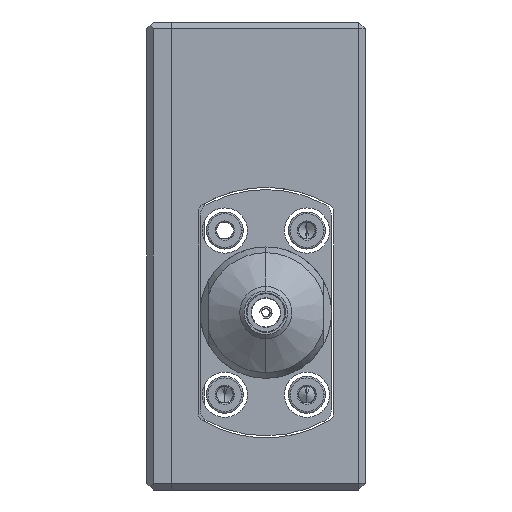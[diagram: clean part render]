
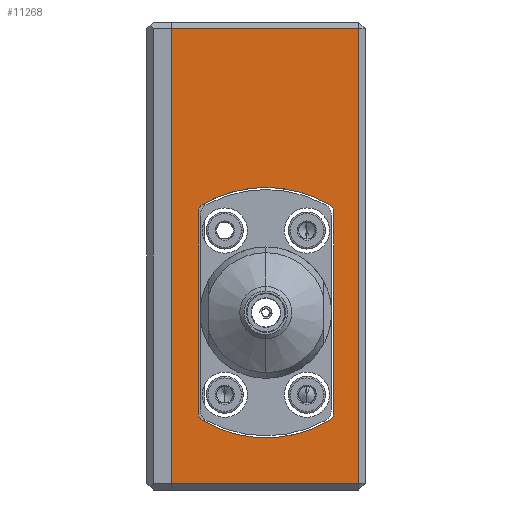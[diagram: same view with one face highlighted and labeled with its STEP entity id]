
A CAD part, left-side view. The second image highlights one B-rep face of the part: STEP entity #11268.
In plain terms, the highlighted planar face has unit normal (-1, 0, 0).
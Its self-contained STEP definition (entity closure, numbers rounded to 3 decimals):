
#126 = DIRECTION ( 'NONE',  ( 0., 0., 1. ) ) ;
#153 = ORIENTED_EDGE ( 'NONE', *, *, #2607, .F. ) ;
#436 = VERTEX_POINT ( 'NONE', #5496 ) ;
#623 = CARTESIAN_POINT ( 'NONE',  ( -20., -19.259, -1.271 ) ) ;
#637 = VERTEX_POINT ( 'NONE', #3236 ) ;
#895 = ORIENTED_EDGE ( 'NONE', *, *, #8163, .F. ) ;
#1932 = DIRECTION ( 'NONE',  ( 0., 0., 1. ) ) ;
#1965 = DIRECTION ( 'NONE',  ( -1., 0., 0. ) ) ;
#1983 = AXIS2_PLACEMENT_3D ( 'NONE', #10671, #10618, #10557 ) ;
#1988 = CARTESIAN_POINT ( 'NONE',  ( -20., -23.6, -36. ) ) ;
#2163 = AXIS2_PLACEMENT_3D ( 'NONE', #12257, #12253, #12227 ) ;
#2225 = PLANE ( 'NONE',  #14471 ) ;
#2326 = EDGE_LOOP ( 'NONE', ( #12588, #16977, #6906, #6824 ) ) ;
#2607 = EDGE_CURVE ( 'NONE', #20833, #8684, #12214, .T. ) ;
#2691 = EDGE_CURVE ( 'NONE', #5492, #20833, #11824, .T. ) ;
#2702 = VERTEX_POINT ( 'NONE', #10391 ) ;
#2956 = EDGE_CURVE ( 'NONE', #5392, #5492, #10358, .T. ) ;
#3201 = CIRCLE ( 'NONE', #4397, 1. ) ;
#3236 = CARTESIAN_POINT ( 'NONE',  ( -20., -3.741, -1.271 ) ) ;
#3309 = EDGE_CURVE ( 'NONE', #12557, #18153, #8706, .T. ) ;
#3351 = ORIENTED_EDGE ( 'NONE', *, *, #13172, .F. ) ;
#3356 = FACE_OUTER_BOUND ( 'NONE', #2326, .T. ) ;
#3375 = EDGE_CURVE ( 'NONE', #18153, #436, #8222, .T. ) ;
#3450 = EDGE_CURVE ( 'NONE', #2702, #436, #7837, .T. ) ;
#3724 = EDGE_CURVE ( 'NONE', #637, #17450, #6722, .T. ) ;
#3856 = CIRCLE ( 'NONE', #5301, 15.25 ) ;
#4397 = AXIS2_PLACEMENT_3D ( 'NONE', #6513, #19640, #8560 ) ;
#4563 = CIRCLE ( 'NONE', #11224, 1. ) ;
#4682 = ORIENTED_EDGE ( 'NONE', *, *, #2691, .F. ) ;
#4966 = DIRECTION ( 'NONE',  ( 0., 0., 1. ) ) ;
#4971 = CARTESIAN_POINT ( 'NONE',  ( -20., -19.75, -26.668 ) ) ;
#5301 = AXIS2_PLACEMENT_3D ( 'NONE', #20598, #11296, #126 ) ;
#5392 = VERTEX_POINT ( 'NONE', #22569 ) ;
#5478 = VERTEX_POINT ( 'NONE', #20434 ) ;
#5492 = VERTEX_POINT ( 'NONE', #20018 ) ;
#5496 = CARTESIAN_POINT ( 'NONE',  ( -20., 0., 20.2 ) ) ;
#5753 = EDGE_CURVE ( 'NONE', #2702, #12557, #18728, .T. ) ;
#6513 = CARTESIAN_POINT ( 'NONE',  ( -20., -18.75, -26.668 ) ) ;
#6722 = CIRCLE ( 'NONE', #23884, 1. ) ;
#6824 = ORIENTED_EDGE ( 'NONE', *, *, #5753, .T. ) ;
#6906 = ORIENTED_EDGE ( 'NONE', *, *, #3450, .F. ) ;
#7261 = EDGE_CURVE ( 'NONE', #17450, #12310, #8259, .T. ) ;
#7837 = LINE ( 'NONE', #14432, #7862 ) ;
#7862 = VECTOR ( 'NONE', #14644, 1000. ) ;
#7979 = EDGE_CURVE ( 'NONE', #8684, #637, #3856, .T. ) ;
#8159 = VECTOR ( 'NONE', #17698, 1000. ) ;
#8163 = EDGE_CURVE ( 'NONE', #15626, #5392, #3201, .T. ) ;
#8222 = LINE ( 'NONE', #18319, #8159 ) ;
#8259 = LINE ( 'NONE', #16694, #8269 ) ;
#8269 = VECTOR ( 'NONE', #17078, 1000. ) ;
#8495 = VECTOR ( 'NONE', #20428, 1000. ) ;
#8560 = DIRECTION ( 'NONE',  ( 0., 0., -1. ) ) ;
#8684 = VERTEX_POINT ( 'NONE', #19220 ) ;
#8706 = LINE ( 'NONE', #21073, #8495 ) ;
#9016 = CARTESIAN_POINT ( 'NONE',  ( -20., -22.8, 20.2 ) ) ;
#9099 = EDGE_CURVE ( 'NONE', #5478, #15626, #14807, .T. ) ;
#10358 = LINE ( 'NONE', #4971, #10558 ) ;
#10391 = CARTESIAN_POINT ( 'NONE',  ( -20., 0., -35.2 ) ) ;
#10495 = EDGE_LOOP ( 'NONE', ( #895, #23958, #3351, #22412, #17950, #17865, #153, #4682, #23625 ) ) ;
#10557 = DIRECTION ( 'NONE',  ( 0., 0., -1. ) ) ;
#10558 = VECTOR ( 'NONE', #4966, 1000. ) ;
#10618 = DIRECTION ( 'NONE',  ( -1., 0., 0. ) ) ;
#10671 = CARTESIAN_POINT ( 'NONE',  ( -20., -18.75, -2.132 ) ) ;
#11224 = AXIS2_PLACEMENT_3D ( 'NONE', #21078, #21059, #21052 ) ;
#11268 = ADVANCED_FACE ( 'NONE', ( #14579, #3356 ), #2225, .T. ) ;
#11296 = DIRECTION ( 'NONE',  ( -1., 0., 0. ) ) ;
#11824 = CIRCLE ( 'NONE', #1983, 1. ) ;
#11851 = CARTESIAN_POINT ( 'NONE',  ( -20., -22.8, -35.2 ) ) ;
#12214 = CIRCLE ( 'NONE', #2163, 15.25 ) ;
#12227 = DIRECTION ( 'NONE',  ( 0., 0., 1. ) ) ;
#12253 = DIRECTION ( 'NONE',  ( -1., 0., 0. ) ) ;
#12257 = CARTESIAN_POINT ( 'NONE',  ( -20., -11.5, -14.4 ) ) ;
#12310 = VERTEX_POINT ( 'NONE', #24172 ) ;
#12557 = VERTEX_POINT ( 'NONE', #11851 ) ;
#12588 = ORIENTED_EDGE ( 'NONE', *, *, #3309, .T. ) ;
#13172 = EDGE_CURVE ( 'NONE', #12310, #5478, #4563, .T. ) ;
#13715 = CARTESIAN_POINT ( 'NONE',  ( -20., -23.6, -35.2 ) ) ;
#13737 = DIRECTION ( 'NONE',  ( 0., -1., 0. ) ) ;
#14401 = CARTESIAN_POINT ( 'NONE',  ( -20., -3.25, -2.132 ) ) ;
#14432 = CARTESIAN_POINT ( 'NONE',  ( -20., 0., -36. ) ) ;
#14471 = AXIS2_PLACEMENT_3D ( 'NONE', #1988, #1965, #1932 ) ;
#14579 = FACE_BOUND ( 'NONE', #10495, .T. ) ;
#14644 = DIRECTION ( 'NONE',  ( 0., 0., 1. ) ) ;
#14807 = CIRCLE ( 'NONE', #18941, 15.25 ) ;
#15626 = VERTEX_POINT ( 'NONE', #20714 ) ;
#16274 = DIRECTION ( 'NONE',  ( 0., 0., 1. ) ) ;
#16277 = CARTESIAN_POINT ( 'NONE',  ( -20., -11.5, -14.4 ) ) ;
#16301 = DIRECTION ( 'NONE',  ( -1., 0., 0. ) ) ;
#16694 = CARTESIAN_POINT ( 'NONE',  ( -20., -3.25, -26.668 ) ) ;
#16977 = ORIENTED_EDGE ( 'NONE', *, *, #3375, .T. ) ;
#17078 = DIRECTION ( 'NONE',  ( 0., 0., -1. ) ) ;
#17450 = VERTEX_POINT ( 'NONE', #14401 ) ;
#17698 = DIRECTION ( 'NONE',  ( 0., 1., 0. ) ) ;
#17865 = ORIENTED_EDGE ( 'NONE', *, *, #7979, .F. ) ;
#17950 = ORIENTED_EDGE ( 'NONE', *, *, #3724, .F. ) ;
#18153 = VERTEX_POINT ( 'NONE', #9016 ) ;
#18319 = CARTESIAN_POINT ( 'NONE',  ( -20., -23.6, 20.2 ) ) ;
#18728 = LINE ( 'NONE', #13715, #18745 ) ;
#18745 = VECTOR ( 'NONE', #13737, 1000. ) ;
#18941 = AXIS2_PLACEMENT_3D ( 'NONE', #16277, #16301, #16274 ) ;
#19220 = CARTESIAN_POINT ( 'NONE',  ( -20., -11.5, 0.85 ) ) ;
#19640 = DIRECTION ( 'NONE',  ( -1., 0., 0. ) ) ;
#20018 = CARTESIAN_POINT ( 'NONE',  ( -20., -19.75, -2.132 ) ) ;
#20428 = DIRECTION ( 'NONE',  ( 0., 0., 1. ) ) ;
#20434 = CARTESIAN_POINT ( 'NONE',  ( -20., -3.741, -27.529 ) ) ;
#20598 = CARTESIAN_POINT ( 'NONE',  ( -20., -11.5, -14.4 ) ) ;
#20714 = CARTESIAN_POINT ( 'NONE',  ( -20., -19.259, -27.529 ) ) ;
#20833 = VERTEX_POINT ( 'NONE', #623 ) ;
#21052 = DIRECTION ( 'NONE',  ( 0., 0., 1. ) ) ;
#21059 = DIRECTION ( 'NONE',  ( -1., 0., 0. ) ) ;
#21073 = CARTESIAN_POINT ( 'NONE',  ( -20., -22.8, 21. ) ) ;
#21078 = CARTESIAN_POINT ( 'NONE',  ( -20., -4.25, -26.668 ) ) ;
#22412 = ORIENTED_EDGE ( 'NONE', *, *, #7261, .F. ) ;
#22569 = CARTESIAN_POINT ( 'NONE',  ( -20., -19.75, -26.668 ) ) ;
#23625 = ORIENTED_EDGE ( 'NONE', *, *, #2956, .F. ) ;
#23738 = DIRECTION ( 'NONE',  ( 0., 0., -1. ) ) ;
#23759 = DIRECTION ( 'NONE',  ( -1., 0., 0. ) ) ;
#23762 = CARTESIAN_POINT ( 'NONE',  ( -20., -4.25, -2.132 ) ) ;
#23884 = AXIS2_PLACEMENT_3D ( 'NONE', #23762, #23759, #23738 ) ;
#23958 = ORIENTED_EDGE ( 'NONE', *, *, #9099, .F. ) ;
#24172 = CARTESIAN_POINT ( 'NONE',  ( -20., -3.25, -26.668 ) ) ;
